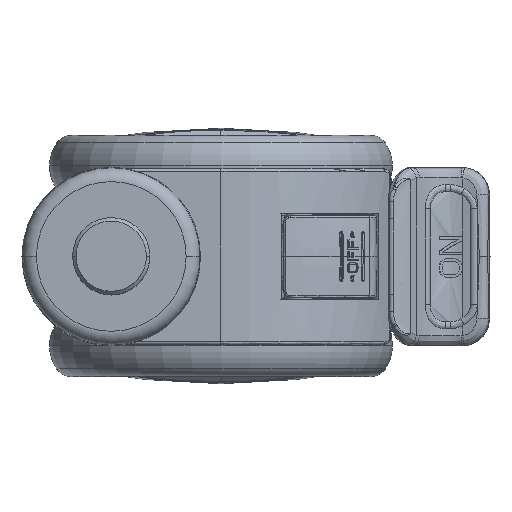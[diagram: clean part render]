
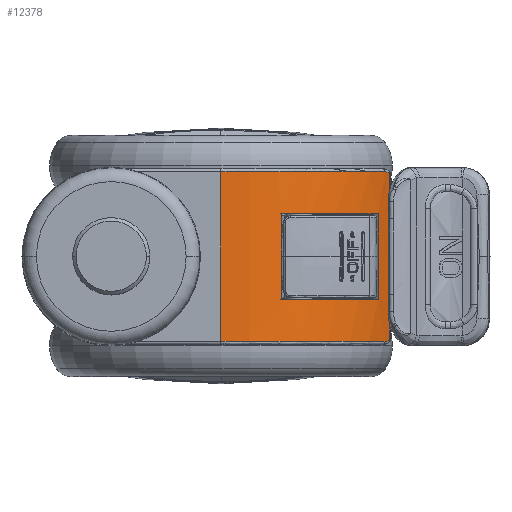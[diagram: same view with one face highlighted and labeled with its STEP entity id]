
A CAD part, top view. The second image highlights one B-rep face of the part: STEP entity #12378.
In plain terms, the highlighted cylindrical face has radius 55.019 mm (diameter 110.038 mm), a partial arc.
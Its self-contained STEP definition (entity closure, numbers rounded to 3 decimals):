
#336=FACE_BOUND('',#19431,.T.);
#337=FACE_BOUND('',#19432,.T.);
#2122=CYLINDRICAL_SURFACE('',#67412,55.019);
#4306=LINE('',#99352,#8434);
#4374=LINE('',#100398,#8502);
#4375=LINE('',#100402,#8503);
#4376=LINE('',#100411,#8504);
#8434=VECTOR('',#74762,1.);
#8502=VECTOR('',#75122,1.);
#8503=VECTOR('',#75125,1.);
#8504=VECTOR('',#75128,1.);
#12378=ADVANCED_FACE('',(#336,#337),#2122,.T.);
#19431=EDGE_LOOP('',(#28231,#28232,#28233,#28234));
#19432=EDGE_LOOP('',(#28235,#28236,#28237,#28238,#28239,#28240));
#23747=B_SPLINE_CURVE_WITH_KNOTS('',3,(#100406,#100407,#100408,#100409),
 .UNSPECIFIED.,.F.,.F.,(4,4),(0.,1.),.UNSPECIFIED.);
#23748=B_SPLINE_CURVE_WITH_KNOTS('',3,(#100413,#100414,#100415,#100416),
 .UNSPECIFIED.,.F.,.F.,(4,4),(0.,1.),.UNSPECIFIED.);
#28231=ORIENTED_EDGE('',*,*,#55129,.T.);
#28232=ORIENTED_EDGE('',*,*,#54899,.F.);
#28233=ORIENTED_EDGE('',*,*,#55133,.F.);
#28234=ORIENTED_EDGE('',*,*,#55134,.T.);
#28235=ORIENTED_EDGE('',*,*,#55135,.T.);
#28236=ORIENTED_EDGE('',*,*,#55136,.T.);
#28237=ORIENTED_EDGE('',*,*,#55137,.T.);
#28238=ORIENTED_EDGE('',*,*,#55138,.T.);
#28239=ORIENTED_EDGE('',*,*,#55139,.T.);
#28240=ORIENTED_EDGE('',*,*,#55140,.T.);
#47791=VERTEX_POINT('',#99351);
#47792=VERTEX_POINT('',#99353);
#47976=VERTEX_POINT('',#100390);
#47977=VERTEX_POINT('',#100395);
#47978=VERTEX_POINT('',#100400);
#47979=VERTEX_POINT('',#100401);
#47980=VERTEX_POINT('',#100403);
#47981=VERTEX_POINT('',#100405);
#47982=VERTEX_POINT('',#100410);
#47983=VERTEX_POINT('',#100412);
#54899=EDGE_CURVE('',#47791,#47792,#4306,.T.);
#55129=EDGE_CURVE('',#47976,#47792,#64053,.T.);
#55133=EDGE_CURVE('',#47977,#47791,#64055,.T.);
#55134=EDGE_CURVE('',#47977,#47976,#4374,.T.);
#55135=EDGE_CURVE('',#47978,#47979,#64056,.T.);
#55136=EDGE_CURVE('',#47979,#47980,#4375,.T.);
#55137=EDGE_CURVE('',#47980,#47981,#64057,.T.);
#55138=EDGE_CURVE('',#47981,#47982,#23747,.T.);
#55139=EDGE_CURVE('',#47982,#47983,#4376,.T.);
#55140=EDGE_CURVE('',#47983,#47978,#23748,.T.);
#64053=CIRCLE('',#67405,55.019);
#64055=CIRCLE('',#67408,55.019);
#64056=CIRCLE('',#67410,55.019);
#64057=CIRCLE('',#67411,55.019);
#67405=AXIS2_PLACEMENT_3D('',#100389,#75110,#75111);
#67408=AXIS2_PLACEMENT_3D('',#100396,#75118,#75119);
#67410=AXIS2_PLACEMENT_3D('',#100399,#75123,#75124);
#67411=AXIS2_PLACEMENT_3D('',#100404,#75126,#75127);
#67412=AXIS2_PLACEMENT_3D('',#100417,#75129,#75130);
#74762=DIRECTION('',(0.,1.,0.));
#75110=DIRECTION('',(0.,1.,0.));
#75111=DIRECTION('',(1.,0.,0.));
#75118=DIRECTION('',(0.,1.,0.));
#75119=DIRECTION('',(1.,0.,0.));
#75122=DIRECTION('',(0.,1.,0.));
#75123=DIRECTION('',(0.,-1.,0.));
#75124=DIRECTION('',(1.,0.,0.));
#75125=DIRECTION('',(0.,-1.,0.));
#75126=DIRECTION('',(0.,1.,0.));
#75127=DIRECTION('',(1.,0.,0.));
#75128=DIRECTION('',(0.,1.,0.));
#75129=DIRECTION('',(0.,-1.,0.));
#75130=DIRECTION('',(-1.,0.,0.));
#99351=CARTESIAN_POINT('',(77.854,-12.5,-81.797));
#99352=CARTESIAN_POINT('',(77.854,12.5,-81.797));
#99353=CARTESIAN_POINT('',(77.854,12.5,-81.797));
#100389=CARTESIAN_POINT('',(32.,12.5,-112.203));
#100390=CARTESIAN_POINT('',(49.528,12.5,-60.051));
#100395=CARTESIAN_POINT('',(49.528,-12.5,-60.051));
#100396=CARTESIAN_POINT('',(32.,-12.5,-112.203));
#100398=CARTESIAN_POINT('',(49.528,25.75,-60.051));
#100399=CARTESIAN_POINT('',(32.,24.75,-112.203));
#100400=CARTESIAN_POINT('',(79.875,24.75,-85.09));
#100401=CARTESIAN_POINT('',(32.,24.75,-57.184));
#100402=CARTESIAN_POINT('',(32.,25.75,-57.184));
#100403=CARTESIAN_POINT('',(32.,-24.75,-57.184));
#100404=CARTESIAN_POINT('',(32.,-24.75,-112.203));
#100405=CARTESIAN_POINT('',(79.875,-24.75,-85.09));
#100406=CARTESIAN_POINT('',(79.875,-24.75,-85.09));
#100407=CARTESIAN_POINT('',(80.344,-24.75,-85.918));
#100408=CARTESIAN_POINT('',(80.776,-24.597,-86.733));
#100409=CARTESIAN_POINT('',(81.158,-24.307,-87.493));
#100410=CARTESIAN_POINT('',(81.158,-24.307,-87.493));
#100411=CARTESIAN_POINT('',(81.158,25.75,-87.493));
#100412=CARTESIAN_POINT('',(81.158,24.307,-87.493));
#100413=CARTESIAN_POINT('',(81.158,24.307,-87.493));
#100414=CARTESIAN_POINT('',(80.776,24.597,-86.734));
#100415=CARTESIAN_POINT('',(80.344,24.75,-85.919));
#100416=CARTESIAN_POINT('',(79.875,24.75,-85.09));
#100417=CARTESIAN_POINT('',(32.,25.75,-112.203));
